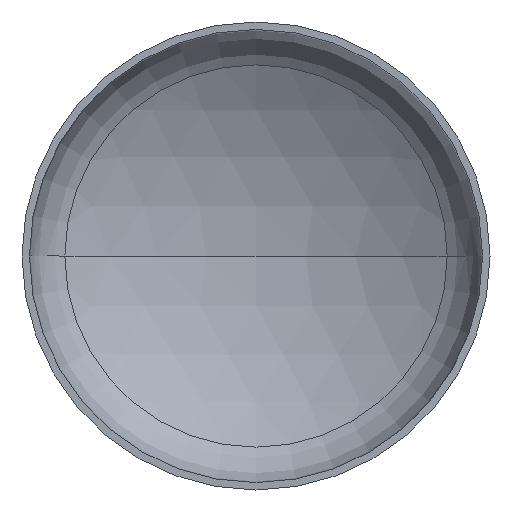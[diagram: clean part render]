
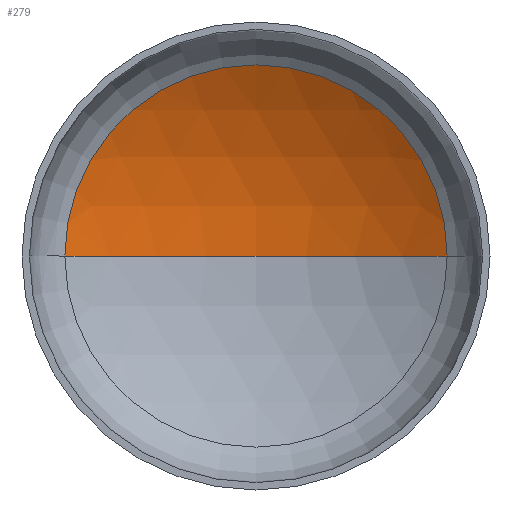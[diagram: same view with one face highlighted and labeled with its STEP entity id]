
A CAD part, front view. The second image highlights one B-rep face of the part: STEP entity #279.
In plain terms, the highlighted spherical face has radius 1760 mm.
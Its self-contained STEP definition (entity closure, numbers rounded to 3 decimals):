
#32 = DIRECTION ( 'NONE',  ( -1., 0., 0. ) ) ;
#36 = DIRECTION ( 'NONE',  ( 0., -1., 0. ) ) ;
#37 = AXIS2_PLACEMENT_3D ( 'NONE', #233, #362, #105 ) ;
#43 = ORIENTED_EDGE ( 'NONE', *, *, #160, .T. ) ;
#44 = VERTEX_POINT ( 'NONE', #248 ) ;
#49 = CARTESIAN_POINT ( 'NONE',  ( 0., 402.346, 0. ) ) ;
#50 = AXIS2_PLACEMENT_3D ( 'NONE', #316, #181, #342 ) ;
#52 = ORIENTED_EDGE ( 'NONE', *, *, #177, .F. ) ;
#56 = AXIS2_PLACEMENT_3D ( 'NONE', #333, #176, #32 ) ;
#58 = AXIS2_PLACEMENT_3D ( 'NONE', #49, #36, #337 ) ;
#78 = CARTESIAN_POINT ( 'NONE',  ( -898.592, 402.346, 0. ) ) ;
#105 = DIRECTION ( 'NONE',  ( -1., 0., 0. ) ) ;
#107 = CIRCLE ( 'NONE', #58, 898.592 ) ;
#120 = EDGE_LOOP ( 'NONE', ( #52, #43, #145 ) ) ;
#135 = VERTEX_POINT ( 'NONE', #78 ) ;
#140 = EDGE_CURVE ( 'NONE', #344, #135, #107, .T. ) ;
#145 = ORIENTED_EDGE ( 'NONE', *, *, #140, .T. ) ;
#160 = EDGE_CURVE ( 'NONE', #44, #344, #312, .T. ) ;
#176 = DIRECTION ( 'NONE',  ( 0., 0., -1. ) ) ;
#177 = EDGE_CURVE ( 'NONE', #44, #135, #364, .T. ) ;
#181 = DIRECTION ( 'NONE',  ( 0., 0., 1. ) ) ;
#184 = SPHERICAL_SURFACE ( 'NONE', #37, 1760. ) ;
#185 = CARTESIAN_POINT ( 'NONE',  ( 898.592, 402.346, 0. ) ) ;
#233 = CARTESIAN_POINT ( 'NONE',  ( 0., -1110.973, 0. ) ) ;
#237 = FACE_OUTER_BOUND ( 'NONE', #120, .T. ) ;
#248 = CARTESIAN_POINT ( 'NONE',  ( 0., 649.027, 0. ) ) ;
#279 = ADVANCED_FACE ( 'NONE', ( #237 ), #184, .F. ) ;
#312 = CIRCLE ( 'NONE', #56, 1760. ) ;
#316 = CARTESIAN_POINT ( 'NONE',  ( 0., -1110.973, 0. ) ) ;
#333 = CARTESIAN_POINT ( 'NONE',  ( 0., -1110.973, 0. ) ) ;
#337 = DIRECTION ( 'NONE',  ( 1., 0., 0. ) ) ;
#342 = DIRECTION ( 'NONE',  ( 1., 0., 0. ) ) ;
#344 = VERTEX_POINT ( 'NONE', #185 ) ;
#362 = DIRECTION ( 'NONE',  ( 0., 0., -1. ) ) ;
#364 = CIRCLE ( 'NONE', #50, 1760. ) ;
